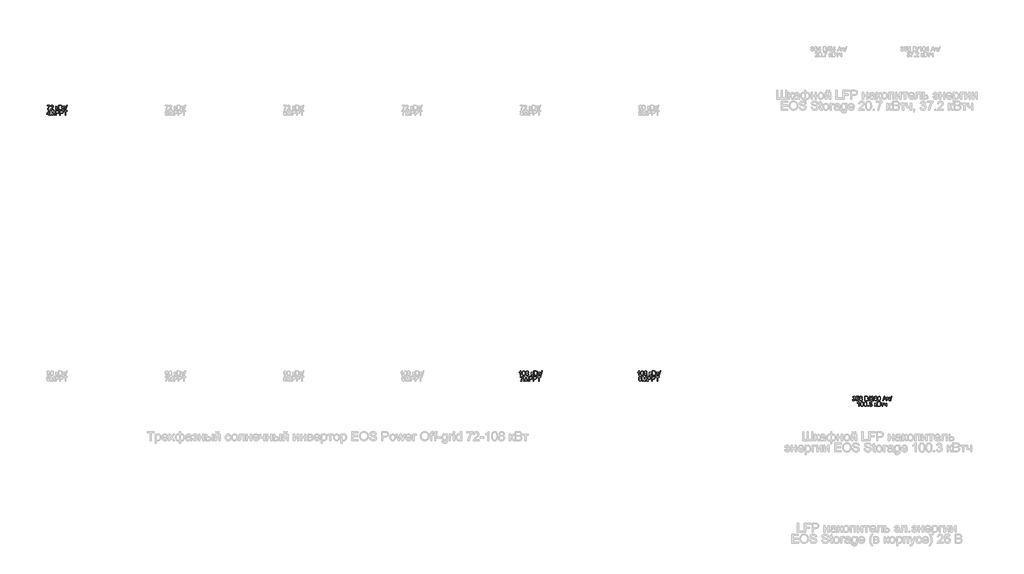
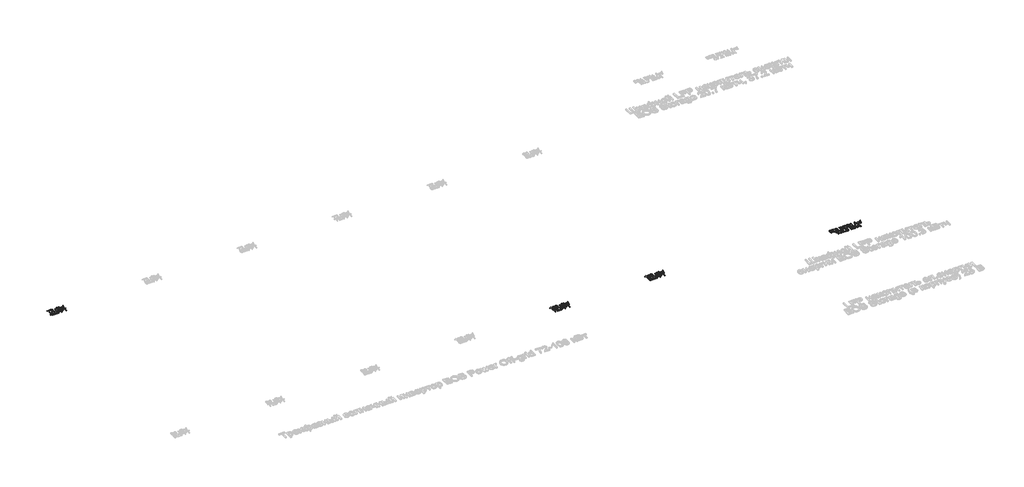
# One storey, part 22 of 26: 4 proxies.
"""IFC4 building model written with IfcOpenShell, lengths in millimetres."""

from ifc_helpers import new_model, si_unit, origin, origin_with_axes, place, context, project, spatial, polyline, outline, extrude, element, save

model = new_model("IFC4")

# Units and contexts
model_context = context("Model", 3, world=origin())
ifc_project = project(units=[si_unit("LENGTHUNIT", "METRE", prefix="MILLI")], contexts=[model_context])

# Site, building, storey
site = spatial("IfcSite", under=ifc_project)
building = spatial("IfcBuilding", under=site)
storey = spatial("IfcBuildingStorey", under=building, Name="Этаж 01", Elevation=0.0)

# Proxies
placement = place(None, origin())
element("IfcBuildingElementProxy", 1, Name="75 мм Arial", ObjectType="75 мм Arial", at=placement, inside=storey, context=model_context, shape_type="SweptSolid", body=[
    extrude(outline(polyline([(1821.5585542, -6950.1268309), (1821.5585542, -6940.7090518), (1871.0018943, -6940.7090518), (1871.0018943, -6948.3242091), (1856.9763933, -6968.58531), (1846.2434361, -6994.401429), (1842.7485571, -7014.874062), (1833.330778, -7014.874062), (1837.0739773, -6993.6288768), (1847.3470821, -6969.6153796), (1861.5841153, -6950.1268309), (1821.5585542, -6950.1268309)])), origin_with_axes(), (0.0, 0.0, 1.0), 5.0),
    extrude(outline(polyline([(1927.5085688, -7005.456283), (1927.5085688, -7014.874062), (1878.0652287, -7014.874062), (1879.0769041, -7008.3809448), (1884.7974692, -6998.3837516), (1896.5880871, -6987.4668534), (1912.8484713, -6971.7766863), (1916.9135673, -6961.1081084), (1913.0783975, -6952.4720786), (1903.0628102, -6948.9496085), (1892.6241586, -6952.3893052), (1888.6602301, -6961.8990547), (1879.242451, -6960.7218323), (1881.5256187, -6951.6121544), (1886.4621352, -6944.9580888), (1893.7944832, -6940.8883943), (1903.2651453, -6939.5318294), (1912.8047853, -6941.0401456), (1920.1233378, -6945.5650941), (1924.7793443, -6952.3249258), (1926.3313464, -6960.5378913), (1924.6574833, -6969.4682268), (1919.0932682, -6978.7020649), (1905.601196, -6991.6055258), (1894.7670712, -7000.66462), (1890.5180342, -7005.456283), (1927.5085688, -7005.456283)])), origin_with_axes(), (0.0, 0.0, 1.0), 5.0),
    extrude(outline(polyline([(1968.7113523, -6959.54461), (1978.1291313, -6959.54461), (1978.1291313, -6983.0890576), (1984.4383076, -6981.3968005), (1989.6070496, -6971.537563), (1993.9020719, -6963.0302919), (1997.6912564, -6960.2619798), (2004.5798468, -6959.54461), (2006.3824686, -6959.54461), (2006.3824686, -6969.0175713), (2003.8440828, -6968.962389), (1999.2455579, -6969.9556704), (1996.0081963, -6976.154482), (1992.2098147, -6982.8591314), (1986.8847228, -6986.1424782), (1998.6569467, -6997.528426), (2008.7369133, -7014.874062), (1998.0315473, -7014.874062), (1988.1539157, -6997.896308), (1983.1875088, -6990.713412), (1978.1291313, -6988.9751696), (1978.1291313, -7014.874062), (1968.7113523, -7014.874062), (1968.7113523, -6959.54461)])), origin_with_axes(), (0.0, 0.0, 1.0), 5.0),
    extrude(outline(polyline([(2015.8002476, -7014.874062), (2015.8002476, -6939.5318294), (2044.5502256, -6939.5318294), (2058.6309089, -6941.7483184), (2066.945042, -6948.5633324), (2069.9524773, -6958.2018407), (2067.4232886, -6967.0034174), (2059.7805402, -6973.6712786), (2069.0603635, -6980.6978247), (2072.3069221, -6992.4148662), (2070.0904331, -7002.5408181), (2064.5997943, -7009.7513052), (2056.4052229, -7013.577278), (2044.3294964, -7014.874062), (2015.8002476, -7014.874062)]), holes=[polyline([(2025.2180267, -7005.456283), (2044.5318315, -7005.456283), (2051.5215894, -7005.088401), (2057.4352925, -7003.0374588), (2061.3532357, -6998.8528011), (2062.889143, -6992.5068367), (2061.0865213, -6985.185985), (2055.2463946, -6980.8173863), (2043.6121265, -6979.5573905), (2025.2180267, -6979.5573905), (2025.2180267, -7005.456283)]), polyline([(2025.2180267, -6970.1396114), (2042.41651, -6970.1396114), (2052.4596885, -6969.330271), (2058.5021502, -6965.8445891), (2060.5346983, -6959.7101569), (2058.640106, -6953.5665275), (2053.2138466, -6949.9336928), (2041.1105289, -6948.9496085), (2025.2180267, -6948.9496085), (2025.2180267, -6970.1396114)])]), origin_with_axes(), (0.0, 0.0, 1.0), 5.0),
    extrude(outline(polyline([(2079.3702564, -6959.54461), (2124.104707, -6959.54461), (2124.104707, -6968.962389), (2106.4463713, -6968.962389), (2106.4463713, -7014.874062), (2097.0285922, -7014.874062), (2097.0285922, -6968.962389), (2079.3702564, -6968.962389), (2079.3702564, -6959.54461)])), origin_with_axes(), (0.0, 0.0, 1.0), 5.0),
    extrude(outline(polyline([(2125.2819294, -7014.874062), (2146.4719323, -6939.5318294), (2154.9700064, -6939.5318294), (2133.7800035, -7014.874062), (2125.2819294, -7014.874062)])), origin_with_axes(), (0.0, 0.0, 1.0), 5.0),
    extrude(outline(polyline([(1848.0460578, -7106.3551754), (1848.0460578, -7088.6968396), (1813.9066087, -7088.6968396), (1813.9066087, -7079.2790606), (1850.4005026, -7032.1901652), (1857.4638369, -7032.1901652), (1857.4638369, -7079.2790606), (1866.881616, -7079.2790606), (1866.881616, -7088.6968396), (1857.4638369, -7088.6968396), (1857.4638369, -7106.3551754), (1848.0460578, -7106.3551754)]), holes=[polyline([(1848.0460578, -7079.2790606), (1848.0460578, -7050.1795948), (1825.4948915, -7079.2790606), (1848.0460578, -7079.2790606)])]), origin_with_axes(), (0.0, 0.0, 1.0), 5.0),
    extrude(outline(polyline([(1878.6538398, -7106.3551754), (1878.6538398, -7031.0129428), (1894.8590417, -7031.0129428), (1910.2732973, -7084.1167088), (1913.3819002, -7095.208351), (1916.7480204, -7083.1970038), (1931.9047586, -7031.0129428), (1948.1099605, -7031.0129428), (1948.1099605, -7106.3551754), (1938.6921815, -7106.3551754), (1938.6921815, -7040.4307219), (1919.7646528, -7106.3551754), (1906.9991476, -7106.3551754), (1888.0716189, -7040.4307219), (1888.0716189, -7106.3551754), (1878.6538398, -7106.3551754)])), origin_with_axes(), (0.0, 0.0, 1.0), 5.0),
    extrude(outline(polyline([(1964.5910739, -7106.3551754), (1964.5910739, -7031.0129428), (1992.5133174, -7031.0129428), (2003.7705064, -7031.7303127), (2012.921571, -7035.2527828), (2018.8536682, -7042.5368463), (2021.0977484, -7052.809951), (2019.5825344, -7061.6897027), (2015.0368925, -7069.0887293), (2006.5365192, -7074.0827274), (1993.1571108, -7075.7473934), (1974.008853, -7075.7473934), (1974.008853, -7106.3551754), (1964.5910739, -7106.3551754)]), holes=[polyline([(1974.008853, -7066.3296143), (1993.7089338, -7066.3296143), (2007.5780851, -7062.8715236), (2011.6799693, -7053.1410448), (2009.2611452, -7045.3419465), (2002.9059837, -7041.0745154), (1993.4882046, -7040.4307219), (1974.008853, -7040.4307219), (1974.008853, -7066.3296143)])]), origin_with_axes(), (0.0, 0.0, 1.0), 5.0),
    extrude(outline(polyline([(2034.0471946, -7106.3551754), (2034.0471946, -7031.0129428), (2061.969438, -7031.0129428), (2073.2266271, -7031.7303127), (2082.3776917, -7035.2527828), (2088.3097889, -7042.5368463), (2090.5538691, -7052.809951), (2089.0386551, -7061.6897027), (2084.4930132, -7069.0887293), (2075.9926398, -7074.0827274), (2062.6132315, -7075.7473934), (2043.4649737, -7075.7473934), (2043.4649737, -7106.3551754), (2034.0471946, -7106.3551754)]), holes=[polyline([(2043.4649737, -7066.3296143), (2063.1650545, -7066.3296143), (2077.0342057, -7062.8715236), (2081.13609, -7053.1410448), (2078.7172659, -7045.3419465), (2072.3621044, -7041.0745154), (2062.9443253, -7040.4307219), (2043.4649737, -7040.4307219), (2043.4649737, -7066.3296143)])]), origin_with_axes(), (0.0, 0.0, 1.0), 5.0),
    extrude(outline(polyline([(2122.3388735, -7106.3551754), (2122.3388735, -7040.4307219), (2097.6172034, -7040.4307219), (2097.6172034, -7031.0129428), (2156.4783226, -7031.0129428), (2156.4783226, -7040.4307219), (2131.7566525, -7040.4307219), (2131.7566525, -7106.3551754), (2122.3388735, -7106.3551754)])), origin_with_axes(), (0.0, 0.0, 1.0), 5.0),
])
element("IfcBuildingElementProxy", 2, Name="75 мм Arial", ObjectType="75 мм Arial", at=placement, inside=storey, context=model_context, shape_type="SweptSolid", body=[
    extrude(outline(polyline([(9668.0332773, -11414.874062), (9658.6154982, -11414.874062), (9658.6154982, -11356.1600956), (9649.6943599, -11362.5152571), (9639.7799401, -11367.2701319), (9639.7799401, -11358.3673876), (9653.584712, -11349.5566138), (9661.9632244, -11339.5318294), (9668.0332773, -11339.5318294), (9668.0332773, -11414.874062)])), origin_with_axes(), (0.0, 0.0, 1.0), 5.0),
    extrude(outline(polyline([(9690.4005026, -11377.809951), (9693.1688146, -11356.1325045), (9701.3909772, -11343.6337137), (9715.1221727, -11339.5318294), (9726.1218443, -11341.9598506), (9733.7186076, -11348.9588055), (9738.1331915, -11360.10563), (9739.8438428, -11377.809951), (9737.1031219, -11399.3954271), (9728.9085505, -11411.921809), (9715.1221727, -11416.0512844), (9705.3365116, -11414.2578597), (9697.9052953, -11408.8775855), (9692.2767008, -11396.1350729), (9690.4005026, -11377.809951)]), holes=[polyline([(9699.8182817, -11377.7915569), (9700.9219277, -11392.605705), (9704.2328656, -11401.1796548), (9715.1221727, -11406.6335053), (9726.0114798, -11401.1612607), (9729.3224177, -11392.5827124), (9730.4260637, -11377.7915569), (9726.1586325, -11354.6701735), (9715.0118081, -11348.9496085), (9704.3800184, -11353.9895918), (9700.9587159, -11363.1682476), (9699.8182817, -11377.7915569)])]), origin_with_axes(), (0.0, 0.0, 1.0), 5.0),
    extrude(outline(polyline([(9761.8063979, -11373.376973), (9753.2255503, -11367.5276493), (9750.4388442, -11358.4225699), (9751.9563575, -11351.0603314), (9756.5088972, -11344.9764829), (9763.586027, -11340.8929928), (9772.6773108, -11339.5318294), (9781.8237769, -11340.9251825), (9788.9928773, -11345.1052416), (9793.6281905, -11351.2856592), (9795.1732948, -11358.6800873), (9792.4233769, -11367.5552404), (9784.0816527, -11373.376973), (9794.09724, -11380.762204), (9797.5277396, -11392.9482951), (9795.8262854, -11401.952207), (9790.7219227, -11409.3926203), (9782.840051, -11414.3866184), (9772.8060695, -11416.0512844), (9762.7720881, -11414.3797206), (9754.8902164, -11409.3650292), (9749.7858537, -11401.8533387), (9748.0843995, -11392.6907777), (9751.6528548, -11380.2195781), (9761.8063979, -11373.376973)]), holes=[polyline([(9759.8566233, -11358.6984814), (9763.1951524, -11366.0929095), (9772.9164341, -11368.962389), (9782.4445778, -11366.1113036), (9785.7555158, -11359.1215457), (9782.3342132, -11351.8834674), (9772.8060695, -11348.9496085), (9763.2503347, -11351.8190881), (9759.8566233, -11358.6984814)]), polyline([(9757.5021785, -11392.3596839), (9759.0748741, -11399.4506094), (9764.6390892, -11404.7573072), (9772.8796459, -11406.6335053), (9784.1000468, -11402.6879709), (9788.1099605, -11392.6539895), (9783.9712881, -11382.4268701), (9772.5669462, -11378.3801681), (9761.4845011, -11382.3716878), (9757.5021785, -11392.3596839)])]), origin_with_axes(), (0.0, 0.0, 1.0), 5.0),
    extrude(outline(polyline([(9837.5533007, -11359.54461), (9846.9710798, -11359.54461), (9846.9710798, -11383.0890576), (9853.280256, -11381.3968005), (9858.448998, -11371.537563), (9862.7440203, -11363.0302919), (9866.5332049, -11360.2619798), (9873.4217952, -11359.54461), (9875.224417, -11359.54461), (9875.224417, -11369.0175713), (9872.6860312, -11368.962389), (9868.0875063, -11369.9556704), (9864.8501447, -11376.154482), (9861.0517631, -11382.8591314), (9855.7266713, -11386.1424782), (9867.4988951, -11397.528426), (9877.5788618, -11414.874062), (9866.8734957, -11414.874062), (9856.9958641, -11397.896308), (9852.0294572, -11390.713412), (9846.9710798, -11388.9751696), (9846.9710798, -11414.874062), (9837.5533007, -11414.874062), (9837.5533007, -11359.54461)])), origin_with_axes(), (0.0, 0.0, 1.0), 5.0),
    extrude(outline(polyline([(9884.6421961, -11414.874062), (9884.6421961, -11339.5318294), (9913.392174, -11339.5318294), (9927.4728574, -11341.7483184), (9935.7869905, -11348.5633324), (9938.7944258, -11358.2018407), (9936.265237, -11367.0034174), (9928.6224886, -11373.6712786), (9937.9023119, -11380.6978247), (9941.1488705, -11392.4148662), (9938.9323815, -11402.5408181), (9933.4417427, -11409.7513052), (9925.2471713, -11413.577278), (9913.1714448, -11414.874062), (9884.6421961, -11414.874062)]), holes=[polyline([(9894.0599751, -11370.1396114), (9911.2584584, -11370.1396114), (9921.3016369, -11369.330271), (9927.3440987, -11365.8445891), (9929.3766467, -11359.7101569), (9927.4820544, -11353.5665275), (9922.055795, -11349.9336928), (9909.9524773, -11348.9496085), (9894.0599751, -11348.9496085), (9894.0599751, -11370.1396114)]), polyline([(9894.0599751, -11405.456283), (9913.3737799, -11405.456283), (9920.3635378, -11405.088401), (9926.2772409, -11403.0374588), (9930.1951841, -11398.8528011), (9931.7310915, -11392.5068367), (9929.9284697, -11385.185985), (9924.088343, -11380.8173863), (9912.4540749, -11379.5573905), (9894.0599751, -11379.5573905), (9894.0599751, -11405.456283)])]), origin_with_axes(), (0.0, 0.0, 1.0), 5.0),
    extrude(outline(polyline([(9948.2122048, -11359.54461), (9992.9466555, -11359.54461), (9992.9466555, -11368.962389), (9975.2883197, -11368.962389), (9975.2883197, -11414.874062), (9965.8705406, -11414.874062), (9965.8705406, -11368.962389), (9948.2122048, -11368.962389), (9948.2122048, -11359.54461)])), origin_with_axes(), (0.0, 0.0, 1.0), 5.0),
    extrude(outline(polyline([(9994.1238778, -11414.874062), (10015.3138808, -11339.5318294), (10023.8119548, -11339.5318294), (10002.6219519, -11414.874062), (9994.1238778, -11414.874062)])), origin_with_axes(), (0.0, 0.0, 1.0), 5.0),
    extrude(outline(polyline([(9657.4382759, -11441.6079443), (9657.4382759, -11432.1901652), (9706.881616, -11432.1901652), (9706.881616, -11439.8053225), (9692.8561149, -11460.0664234), (9682.1231577, -11485.8825424), (9678.6282788, -11506.3551754), (9669.2104997, -11506.3551754), (9672.953699, -11485.1099902), (9683.2268037, -11461.096493), (9697.4638369, -11441.6079443), (9657.4382759, -11441.6079443)])), origin_with_axes(), (0.0, 0.0, 1.0), 5.0),
    extrude(outline(polyline([(9718.6538398, -11506.3551754), (9718.6538398, -11431.0129428), (9734.8590417, -11431.0129428), (9750.2732973, -11484.1167088), (9753.3819002, -11495.208351), (9756.7480204, -11483.1970038), (9771.9047586, -11431.0129428), (9788.1099605, -11431.0129428), (9788.1099605, -11506.3551754), (9778.6921815, -11506.3551754), (9778.6921815, -11440.4307219), (9759.7646528, -11506.3551754), (9746.9991476, -11506.3551754), (9728.0716189, -11440.4307219), (9728.0716189, -11506.3551754), (9718.6538398, -11506.3551754)])), origin_with_axes(), (0.0, 0.0, 1.0), 5.0),
    extrude(outline(polyline([(9804.5910739, -11506.3551754), (9804.5910739, -11431.0129428), (9832.5133174, -11431.0129428), (9843.7705064, -11431.7303127), (9852.921571, -11435.2527828), (9858.8536682, -11442.5368463), (9861.0977484, -11452.809951), (9859.5825344, -11461.6897027), (9855.0368925, -11469.0887293), (9846.5365192, -11474.0827274), (9833.1571108, -11475.7473934), (9814.008853, -11475.7473934), (9814.008853, -11506.3551754), (9804.5910739, -11506.3551754)]), holes=[polyline([(9814.008853, -11466.3296143), (9833.7089338, -11466.3296143), (9847.5780851, -11462.8715236), (9851.6799693, -11453.1410448), (9849.2611452, -11445.3419465), (9842.9059837, -11441.0745154), (9833.4882046, -11440.4307219), (9814.008853, -11440.4307219), (9814.008853, -11466.3296143)])]), origin_with_axes(), (0.0, 0.0, 1.0), 5.0),
    extrude(outline(polyline([(9874.0471946, -11506.3551754), (9874.0471946, -11431.0129428), (9901.969438, -11431.0129428), (9913.2266271, -11431.7303127), (9922.3776917, -11435.2527828), (9928.3097889, -11442.5368463), (9930.5538691, -11452.809951), (9929.0386551, -11461.6897027), (9924.4930132, -11469.0887293), (9915.9926398, -11474.0827274), (9902.6132315, -11475.7473934), (9883.4649737, -11475.7473934), (9883.4649737, -11506.3551754), (9874.0471946, -11506.3551754)]), holes=[polyline([(9883.4649737, -11466.3296143), (9903.1650545, -11466.3296143), (9917.0342057, -11462.8715236), (9921.13609, -11453.1410448), (9918.7172659, -11445.3419465), (9912.3621044, -11441.0745154), (9902.9443253, -11440.4307219), (9883.4649737, -11440.4307219), (9883.4649737, -11466.3296143)])]), origin_with_axes(), (0.0, 0.0, 1.0), 5.0),
    extrude(outline(polyline([(9962.3388735, -11506.3551754), (9962.3388735, -11440.4307219), (9937.6172034, -11440.4307219), (9937.6172034, -11431.0129428), (9996.4783226, -11431.0129428), (9996.4783226, -11440.4307219), (9971.7566525, -11440.4307219), (9971.7566525, -11506.3551754), (9962.3388735, -11506.3551754)])), origin_with_axes(), (0.0, 0.0, 1.0), 5.0),
])
element("IfcBuildingElementProxy", 3, Name="75 мм Arial", ObjectType="75 мм Arial", at=placement, inside=storey, context=model_context, shape_type="SweptSolid", body=[
    extrude(outline(polyline([(11628.0332773, -11414.874062), (11618.6154982, -11414.874062), (11618.6154982, -11356.1600956), (11609.6943599, -11362.5152571), (11599.7799401, -11367.2701319), (11599.7799401, -11358.3673876), (11613.584712, -11349.5566138), (11621.9632244, -11339.5318294), (11628.0332773, -11339.5318294), (11628.0332773, -11414.874062)])), origin_with_axes(), (0.0, 0.0, 1.0), 5.0),
    extrude(outline(polyline([(11650.4005026, -11377.809951), (11653.1688146, -11356.1325045), (11661.3909772, -11343.6337137), (11675.1221727, -11339.5318294), (11686.1218443, -11341.9598506), (11693.7186076, -11348.9588055), (11698.1331915, -11360.10563), (11699.8438428, -11377.809951), (11697.1031219, -11399.3954271), (11688.9085505, -11411.921809), (11675.1221727, -11416.0512844), (11665.3365116, -11414.2578597), (11657.9052953, -11408.8775855), (11652.2767008, -11396.1350729), (11650.4005026, -11377.809951)]), holes=[polyline([(11659.8182817, -11377.7915569), (11660.9219277, -11392.605705), (11664.2328656, -11401.1796548), (11675.1221727, -11406.6335053), (11686.0114798, -11401.1612607), (11689.3224177, -11392.5827124), (11690.4260637, -11377.7915569), (11686.1586325, -11354.6701735), (11675.0118081, -11348.9496085), (11664.3800184, -11353.9895918), (11660.9587159, -11363.1682476), (11659.8182817, -11377.7915569)])]), origin_with_axes(), (0.0, 0.0, 1.0), 5.0),
    extrude(outline(polyline([(11721.8063979, -11373.376973), (11713.2255503, -11367.5276493), (11710.4388442, -11358.4225699), (11711.9563575, -11351.0603314), (11716.5088972, -11344.9764829), (11723.586027, -11340.8929928), (11732.6773108, -11339.5318294), (11741.8237769, -11340.9251825), (11748.9928773, -11345.1052416), (11753.6281905, -11351.2856592), (11755.1732948, -11358.6800873), (11752.4233769, -11367.5552404), (11744.0816527, -11373.376973), (11754.09724, -11380.762204), (11757.5277396, -11392.9482951), (11755.8262854, -11401.952207), (11750.7219227, -11409.3926203), (11742.840051, -11414.3866184), (11732.8060695, -11416.0512844), (11722.7720881, -11414.3797206), (11714.8902164, -11409.3650292), (11709.7858537, -11401.8533387), (11708.0843995, -11392.6907777), (11711.6528548, -11380.2195781), (11721.8063979, -11373.376973)]), holes=[polyline([(11719.8566233, -11358.6984814), (11723.1951524, -11366.0929095), (11732.9164341, -11368.962389), (11742.4445778, -11366.1113036), (11745.7555158, -11359.1215457), (11742.3342132, -11351.8834674), (11732.8060695, -11348.9496085), (11723.2503347, -11351.8190881), (11719.8566233, -11358.6984814)]), polyline([(11717.5021785, -11392.3596839), (11719.0748741, -11399.4506094), (11724.6390892, -11404.7573072), (11732.8796459, -11406.6335053), (11744.1000468, -11402.6879709), (11748.1099605, -11392.6539895), (11743.9712881, -11382.4268701), (11732.5669462, -11378.3801681), (11721.4845011, -11382.3716878), (11717.5021785, -11392.3596839)])]), origin_with_axes(), (0.0, 0.0, 1.0), 5.0),
    extrude(outline(polyline([(11797.5533007, -11359.54461), (11806.9710798, -11359.54461), (11806.9710798, -11383.0890576), (11813.280256, -11381.3968005), (11818.448998, -11371.537563), (11822.7440203, -11363.0302919), (11826.5332049, -11360.2619798), (11833.4217952, -11359.54461), (11835.224417, -11359.54461), (11835.224417, -11369.0175713), (11832.6860312, -11368.962389), (11828.0875063, -11369.9556704), (11824.8501447, -11376.154482), (11821.0517631, -11382.8591314), (11815.7266713, -11386.1424782), (11827.4988951, -11397.528426), (11837.5788618, -11414.874062), (11826.8734957, -11414.874062), (11816.9958641, -11397.896308), (11812.0294572, -11390.713412), (11806.9710798, -11388.9751696), (11806.9710798, -11414.874062), (11797.5533007, -11414.874062), (11797.5533007, -11359.54461)])), origin_with_axes(), (0.0, 0.0, 1.0), 5.0),
    extrude(outline(polyline([(11844.6421961, -11414.874062), (11844.6421961, -11339.5318294), (11873.392174, -11339.5318294), (11887.4728574, -11341.7483184), (11895.7869905, -11348.5633324), (11898.7944258, -11358.2018407), (11896.265237, -11367.0034174), (11888.6224886, -11373.6712786), (11897.9023119, -11380.6978247), (11901.1488705, -11392.4148662), (11898.9323815, -11402.5408181), (11893.4417427, -11409.7513052), (11885.2471713, -11413.577278), (11873.1714448, -11414.874062), (11844.6421961, -11414.874062)]), holes=[polyline([(11854.0599751, -11370.1396114), (11871.2584584, -11370.1396114), (11881.3016369, -11369.330271), (11887.3440987, -11365.8445891), (11889.3766467, -11359.7101569), (11887.4820544, -11353.5665275), (11882.055795, -11349.9336928), (11869.9524773, -11348.9496085), (11854.0599751, -11348.9496085), (11854.0599751, -11370.1396114)]), polyline([(11854.0599751, -11405.456283), (11873.3737799, -11405.456283), (11880.3635378, -11405.088401), (11886.2772409, -11403.0374588), (11890.1951841, -11398.8528011), (11891.7310915, -11392.5068367), (11889.9284697, -11385.185985), (11884.088343, -11380.8173863), (11872.4540749, -11379.5573905), (11854.0599751, -11379.5573905), (11854.0599751, -11405.456283)])]), origin_with_axes(), (0.0, 0.0, 1.0), 5.0),
    extrude(outline(polyline([(11908.2122048, -11359.54461), (11952.9466555, -11359.54461), (11952.9466555, -11368.962389), (11935.2883197, -11368.962389), (11935.2883197, -11414.874062), (11925.8705406, -11414.874062), (11925.8705406, -11368.962389), (11908.2122048, -11368.962389), (11908.2122048, -11359.54461)])), origin_with_axes(), (0.0, 0.0, 1.0), 5.0),
    extrude(outline(polyline([(11954.1238778, -11414.874062), (11975.3138808, -11339.5318294), (11983.8119548, -11339.5318294), (11962.6219519, -11414.874062), (11954.1238778, -11414.874062)])), origin_with_axes(), (0.0, 0.0, 1.0), 5.0),
    extrude(outline(polyline([(11631.1602743, -11464.8580864), (11622.5794267, -11459.0087626), (11619.7927206, -11449.9036833), (11621.3102338, -11442.5414448), (11625.8627735, -11436.4575963), (11632.9399034, -11432.3741062), (11642.0311872, -11431.0129428), (11651.1776533, -11432.4062959), (11658.3467537, -11436.586355), (11662.9820669, -11442.7667725), (11664.5271712, -11450.1612007), (11661.7772533, -11459.0363538), (11653.4355291, -11464.8580864), (11663.4511164, -11472.2433174), (11666.881616, -11484.4294085), (11665.1801618, -11493.4333203), (11660.0757991, -11500.8737337), (11652.1939273, -11505.8677318), (11642.1599459, -11507.5323978), (11632.1259645, -11505.860834), (11624.2440928, -11500.8461425), (11619.1397301, -11493.334452), (11617.4382759, -11484.1718911), (11621.0067312, -11471.7006915), (11631.1602743, -11464.8580864)]), holes=[polyline([(11629.2104997, -11450.1795948), (11632.5490288, -11457.5740229), (11642.2703105, -11460.4435024), (11651.7984542, -11457.592417), (11655.1093922, -11450.602659), (11651.6880896, -11443.3645808), (11642.1599459, -11440.4307219), (11632.6042111, -11443.3002014), (11629.2104997, -11450.1795948)]), polyline([(11626.8560549, -11483.8407973), (11628.4287505, -11490.9317228), (11633.9929656, -11496.2384205), (11642.2335223, -11498.1146187), (11653.4539232, -11494.1690843), (11657.4638369, -11484.1351029), (11653.3251645, -11473.9079834), (11641.9208226, -11469.8612815), (11630.8383775, -11473.8528011), (11626.8560549, -11483.8407973)])]), origin_with_axes(), (0.0, 0.0, 1.0), 5.0),
    extrude(outline(polyline([(11678.6538398, -11506.3551754), (11678.6538398, -11431.0129428), (11694.8590417, -11431.0129428), (11710.2732973, -11484.1167088), (11713.3819002, -11495.208351), (11716.7480204, -11483.1970038), (11731.9047586, -11431.0129428), (11748.1099605, -11431.0129428), (11748.1099605, -11506.3551754), (11738.6921815, -11506.3551754), (11738.6921815, -11440.4307219), (11719.7646528, -11506.3551754), (11706.9991476, -11506.3551754), (11688.0716189, -11440.4307219), (11688.0716189, -11506.3551754), (11678.6538398, -11506.3551754)])), origin_with_axes(), (0.0, 0.0, 1.0), 5.0),
    extrude(outline(polyline([(11764.5910739, -11506.3551754), (11764.5910739, -11431.0129428), (11792.5133174, -11431.0129428), (11803.7705064, -11431.7303127), (11812.921571, -11435.2527828), (11818.8536682, -11442.5368463), (11821.0977484, -11452.809951), (11819.5825344, -11461.6897027), (11815.0368925, -11469.0887293), (11806.5365192, -11474.0827274), (11793.1571108, -11475.7473934), (11774.008853, -11475.7473934), (11774.008853, -11506.3551754), (11764.5910739, -11506.3551754)]), holes=[polyline([(11774.008853, -11466.3296143), (11793.7089338, -11466.3296143), (11807.5780851, -11462.8715236), (11811.6799693, -11453.1410448), (11809.2611452, -11445.3419465), (11802.9059837, -11441.0745154), (11793.4882046, -11440.4307219), (11774.008853, -11440.4307219), (11774.008853, -11466.3296143)])]), origin_with_axes(), (0.0, 0.0, 1.0), 5.0),
    extrude(outline(polyline([(11834.0471946, -11506.3551754), (11834.0471946, -11431.0129428), (11861.969438, -11431.0129428), (11873.2266271, -11431.7303127), (11882.3776917, -11435.2527828), (11888.3097889, -11442.5368463), (11890.5538691, -11452.809951), (11889.0386551, -11461.6897027), (11884.4930132, -11469.0887293), (11875.9926398, -11474.0827274), (11862.6132315, -11475.7473934), (11843.4649737, -11475.7473934), (11843.4649737, -11506.3551754), (11834.0471946, -11506.3551754)]), holes=[polyline([(11843.4649737, -11466.3296143), (11863.1650545, -11466.3296143), (11877.0342057, -11462.8715236), (11881.13609, -11453.1410448), (11878.7172659, -11445.3419465), (11872.3621044, -11441.0745154), (11862.9443253, -11440.4307219), (11843.4649737, -11440.4307219), (11843.4649737, -11466.3296143)])]), origin_with_axes(), (0.0, 0.0, 1.0), 5.0),
    extrude(outline(polyline([(11922.3388735, -11506.3551754), (11922.3388735, -11440.4307219), (11897.6172034, -11440.4307219), (11897.6172034, -11431.0129428), (11956.4783226, -11431.0129428), (11956.4783226, -11440.4307219), (11931.7566525, -11440.4307219), (11931.7566525, -11506.3551754), (11922.3388735, -11506.3551754)])), origin_with_axes(), (0.0, 0.0, 1.0), 5.0),
])
element("IfcBuildingElementProxy", 4, Name="75 мм Arial", ObjectType="75 мм Arial", at=placement, inside=storey, context=model_context, shape_type="SweptSolid", body=[
    extrude(outline(polyline([(15158.4812532, -11814.5874233), (15167.8990323, -11813.410201), (15173.0953655, -11823.3246207), (15182.8166472, -11826.3596472), (15194.2577772, -11822.1841866), (15198.5068143, -11811.8467025), (15194.2945654, -11802.1070267), (15183.5891994, -11798.2534628), (15176.9857176, -11799.2835324), (15178.0341812, -11789.8657533), (15190.2294694, -11787.2721852), (15194.9751471, -11778.9580521), (15191.5354505, -11771.5912152), (15182.6694944, -11768.6757504), (15173.6931737, -11771.6188063), (15169.0762547, -11780.4479742), (15159.6584756, -11779.2707518), (15167.3656034, -11764.5002897), (15182.3384006, -11759.2579713), (15193.6967572, -11761.8423423), (15201.6430083, -11768.9056766), (15204.3929262, -11778.4062291), (15201.780964, -11787.0882442), (15194.0554421, -11793.323844), (15204.3193498, -11799.7617789), (15207.9245934, -11812.0122494), (15206.1219716, -11821.1909052), (15200.7141062, -11828.8612448), (15192.5517245, -11834.0483809), (15182.4855534, -11835.7774263), (15173.380474, -11834.3012998), (15165.9676518, -11829.8729202), (15160.8127053, -11823.099293), (15158.4812532, -11814.5874233)])), origin_with_axes(), (0.0, 0.0, 1.0), 5.0),
    extrude(outline(polyline([(15216.16515, -11814.5874233), (15225.5829291, -11813.410201), (15230.3286069, -11823.1130886), (15240.1694502, -11826.3596472), (15251.9784623, -11821.8438957), (15256.1907111, -11809.8601397), (15252.2451767, -11798.6765271), (15240.316603, -11794.5746428), (15232.0484552, -11796.2117177), (15226.7601515, -11800.4607547), (15217.3423724, -11799.2835324), (15225.5829291, -11760.4351937), (15262.076823, -11760.4351937), (15262.076823, -11769.8529727), (15233.1980864, -11769.8529727), (15229.1697786, -11790.6015173), (15242.9469593, -11785.1568637), (15251.7462368, -11786.8445224), (15259.0509936, -11791.9074983), (15263.9691161, -11799.6238232), (15265.6084902, -11809.2715285), (15264.1323637, -11818.6893076), (15259.7039842, -11826.7459233), (15251.2243042, -11833.5195505), (15240.132662, -11835.7774263), (15230.8827291, -11834.3265917), (15223.5135929, -11829.9740878), (15218.4621132, -11823.2257524), (15216.16515, -11814.5874233)])), origin_with_axes(), (0.0, 0.0, 1.0), 5.0),
    extrude(outline(polyline([(15287.5710453, -11793.1031148), (15278.9901978, -11787.2537911), (15276.2034917, -11778.1487117), (15277.7210049, -11770.7864733), (15282.2735446, -11764.7026248), (15289.3506745, -11760.6191347), (15298.4419583, -11759.2579713), (15307.5884244, -11760.6513243), (15314.7575247, -11764.8313835), (15319.3928379, -11771.011801), (15320.9379423, -11778.4062291), (15318.1880244, -11787.2813823), (15309.8463001, -11793.1031148), (15319.8618874, -11800.4883459), (15323.292387, -11812.674437), (15321.5909328, -11821.6783488), (15316.4865701, -11829.1187622), (15308.6046984, -11834.1127602), (15298.570717, -11835.7774263), (15288.5367355, -11834.1058625), (15280.6548638, -11829.091171), (15275.5505011, -11821.5794805), (15273.8490469, -11812.4169196), (15277.4175022, -11799.9457199), (15287.5710453, -11793.1031148)]), holes=[polyline([(15283.266826, -11812.0858258), (15284.8395215, -11819.1767512), (15290.4037367, -11824.483449), (15298.6442934, -11826.3596472), (15309.8646942, -11822.4141128), (15313.874608, -11812.3801314), (15309.7359355, -11802.1530119), (15298.3315937, -11798.10631), (15287.2491486, -11802.0978296), (15283.266826, -11812.0858258)]), polyline([(15285.6212707, -11778.4246232), (15288.9597998, -11785.8190513), (15298.6810816, -11788.6885309), (15308.2092252, -11785.8374454), (15311.5201632, -11778.8476875), (15308.0988606, -11771.6096093), (15298.570717, -11768.6757504), (15289.0149821, -11771.5452299), (15285.6212707, -11778.4246232)])]), origin_with_axes(), (0.0, 0.0, 1.0), 5.0),
    extrude(outline(polyline([(15364.4951705, -11834.6002039), (15364.4951705, -11759.2579713), (15393.2451484, -11759.2579713), (15407.3258318, -11761.4744603), (15415.6399649, -11768.2894743), (15418.6474002, -11777.9279825), (15416.1182115, -11786.7295593), (15408.475463, -11793.3974204), (15417.7552863, -11800.4239665), (15421.001845, -11812.1410081), (15418.7853559, -11822.26696), (15413.2947172, -11829.4774471), (15405.1001457, -11833.3034199), (15393.0244192, -11834.6002039), (15364.4951705, -11834.6002039)]), holes=[polyline([(15373.9129496, -11789.8657533), (15391.1114328, -11789.8657533), (15401.1546113, -11789.0564129), (15407.1970731, -11785.570731), (15409.2296211, -11779.4362987), (15407.3350288, -11773.2926694), (15401.9087694, -11769.6598347), (15389.8054518, -11768.6757504), (15373.9129496, -11768.6757504), (15373.9129496, -11789.8657533)]), polyline([(15373.9129496, -11825.1824248), (15393.2267543, -11825.1824248), (15400.2165122, -11824.8145428), (15406.1302153, -11822.7636007), (15410.0481586, -11818.578943), (15411.5840659, -11812.2329786), (15409.7814441, -11804.9121269), (15403.9413174, -11800.5435282), (15392.3070493, -11799.2835324), (15373.9129496, -11799.2835324), (15373.9129496, -11825.1824248)])]), origin_with_axes(), (0.0, 0.0, 1.0), 5.0),
    extrude(outline(polyline([(15425.7107345, -11834.6002039), (15446.9007374, -11759.2579713), (15455.3988115, -11759.2579713), (15434.2088086, -11834.6002039), (15425.7107345, -11834.6002039)])), origin_with_axes(), (0.0, 0.0, 1.0), 5.0),
    extrude(outline(polyline([(15508.1163014, -11825.1824248), (15508.1163014, -11834.6002039), (15458.6729613, -11834.6002039), (15459.6846367, -11828.1070867), (15465.4052018, -11818.1098935), (15477.1958197, -11807.1929952), (15493.4562039, -11791.5028282), (15497.5213, -11780.8342503), (15493.6861302, -11772.1982205), (15483.6705428, -11768.6757504), (15473.2318912, -11772.115447), (15469.2679627, -11781.6251966), (15459.8501836, -11780.4479742), (15462.1333513, -11771.3382963), (15467.0698678, -11764.6842307), (15474.4022158, -11760.6145361), (15483.8728779, -11759.2579713), (15493.4125179, -11760.7662875), (15500.7310704, -11765.291236), (15505.3870769, -11772.0510677), (15506.939079, -11780.2640332), (15505.265216, -11789.1943686), (15499.7010008, -11798.4282067), (15486.2089286, -11811.3316677), (15475.3748038, -11820.3907618), (15471.1257668, -11825.1824248), (15508.1163014, -11825.1824248)])), origin_with_axes(), (0.0, 0.0, 1.0), 5.0),
    extrude(outline(polyline([(15531.2560789, -11793.1031148), (15522.6752314, -11787.2537911), (15519.8885253, -11778.1487117), (15521.4060385, -11770.7864733), (15525.9585782, -11764.7026248), (15533.0357081, -11760.6191347), (15542.1269919, -11759.2579713), (15551.273458, -11760.6513243), (15558.4425584, -11764.8313835), (15563.0778715, -11771.011801), (15564.6229759, -11778.4062291), (15561.873058, -11787.2813823), (15553.5313337, -11793.1031148), (15563.546921, -11800.4883459), (15566.9774206, -11812.674437), (15565.2759664, -11821.6783488), (15560.1716037, -11829.1187622), (15552.289732, -11834.1127602), (15542.2557506, -11835.7774263), (15532.2217691, -11834.1058625), (15524.3398974, -11829.091171), (15519.2355347, -11821.5794805), (15517.5340805, -11812.4169196), (15521.1025358, -11799.9457199), (15531.2560789, -11793.1031148)]), holes=[polyline([(15529.3063043, -11778.4246232), (15532.6448334, -11785.8190513), (15542.3661152, -11788.6885309), (15551.8942588, -11785.8374454), (15555.2051968, -11778.8476875), (15551.7838942, -11771.6096093), (15542.2557506, -11768.6757504), (15532.7000157, -11771.5452299), (15529.3063043, -11778.4246232)]), polyline([(15526.9518596, -11812.0858258), (15528.5245551, -11819.1767512), (15534.0887703, -11824.483449), (15542.329327, -11826.3596472), (15553.5497278, -11822.4141128), (15557.5596416, -11812.3801314), (15553.4209691, -11802.1530119), (15542.0166273, -11798.10631), (15530.9341822, -11802.0978296), (15526.9518596, -11812.0858258)])]), origin_with_axes(), (0.0, 0.0, 1.0), 5.0),
    extrude(outline(polyline([(15575.2179773, -11797.5360929), (15577.9862893, -11775.8586463), (15586.2084519, -11763.3598555), (15599.9396474, -11759.2579713), (15610.9393191, -11761.6859924), (15618.5360823, -11768.6849474), (15622.9506662, -11779.8317719), (15624.6613175, -11797.5360929), (15621.9205966, -11819.1215689), (15613.7260252, -11831.6479509), (15599.9396474, -11835.7774263), (15590.1539863, -11833.9840015), (15582.72277, -11828.6037274), (15577.0941755, -11815.8612148), (15575.2179773, -11797.5360929)]), holes=[polyline([(15584.6357564, -11797.5176988), (15585.7394024, -11812.3318469), (15589.0503404, -11820.9057966), (15599.9396474, -11826.3596472), (15610.8289545, -11820.8874025), (15614.1398924, -11812.3088542), (15615.2435384, -11797.5176988), (15610.9761073, -11774.3963154), (15599.8292828, -11768.6757504), (15589.1974932, -11773.7157337), (15585.7761906, -11782.8943895), (15584.6357564, -11797.5176988)])]), origin_with_axes(), (0.0, 0.0, 1.0), 5.0),
    extrude(outline(polyline([(15657.0901154, -11834.6002039), (15687.1644685, -11759.2579713), (15695.184296, -11759.2579713), (15725.2586491, -11834.6002039), (15715.3074411, -11834.6002039), (15706.6806083, -11811.0557562), (15675.649762, -11811.0557562), (15667.0413233, -11834.6002039), (15657.0901154, -11834.6002039)]), holes=[polyline([(15679.1078528, -11801.6379771), (15703.2409117, -11801.6379771), (15696.4534888, -11783.1151187), (15691.1743822, -11768.6757504), (15686.4838868, -11781.4964379), (15679.1078528, -11801.6379771)])]), origin_with_axes(), (0.0, 0.0, 1.0), 5.0),
    extrude(outline(polyline([(15730.6113321, -11779.2707518), (15740.0291112, -11779.2707518), (15740.0291112, -11789.8841474), (15740.7924663, -11799.8353553), (15744.4620892, -11805.2248266), (15751.7461527, -11807.524089), (15764.7507812, -11804.6730036), (15764.7507812, -11779.2707518), (15774.1685603, -11779.2707518), (15774.1685603, -11834.6002039), (15764.7507812, -11834.6002039), (15764.7507812, -11813.7045066), (15749.2261611, -11816.9418681), (15738.5483861, -11813.5665508), (15732.2668011, -11805.298403), (15730.6113321, -11794.5378546), (15730.6113321, -11779.2707518)])), origin_with_axes(), (0.0, 0.0, 1.0), 5.0),
    extrude(outline(polyline([(15781.2318946, -11834.6002039), (15802.4218976, -11759.2579713), (15810.9199716, -11759.2579713), (15789.7299687, -11834.6002039), (15781.2318946, -11834.6002039)])), origin_with_axes(), (0.0, 0.0, 1.0), 5.0),
    extrude(outline(polyline([(15268.5515462, -11926.0813173), (15259.1337671, -11926.0813173), (15259.1337671, -11867.3673508), (15250.2126287, -11873.7225123), (15240.2982089, -11878.4773871), (15240.2982089, -11869.5746428), (15254.1029808, -11860.763869), (15262.4814932, -11850.7390847), (15268.5515462, -11850.7390847), (15268.5515462, -11926.0813173)])), origin_with_axes(), (0.0, 0.0, 1.0), 5.0),
    extrude(outline(polyline([(15290.9187715, -11889.0172063), (15293.6870835, -11867.3397597), (15301.9092461, -11854.8409689), (15315.6404415, -11850.7390847), (15326.6401132, -11853.1671058), (15334.2368764, -11860.1660608), (15338.6514603, -11871.3128852), (15340.3621116, -11889.0172063), (15337.6213907, -11910.6026823), (15329.4268193, -11923.1290643), (15315.6404415, -11927.2585397), (15305.8547805, -11925.4651149), (15298.4235642, -11920.0848408), (15292.7949696, -11907.3423281), (15290.9187715, -11889.0172063)]), holes=[polyline([(15300.3365505, -11888.9988122), (15301.4401965, -11903.8129603), (15304.7511345, -11912.38691), (15315.6404415, -11917.8407606), (15326.5297486, -11912.3685159), (15329.8406866, -11903.7899676), (15330.9443325, -11888.9988122), (15326.6769014, -11865.8774288), (15315.5300769, -11860.1568637), (15304.8982873, -11865.1968471), (15301.4769847, -11874.3755028), (15300.3365505, -11888.9988122)])]), origin_with_axes(), (0.0, 0.0, 1.0), 5.0),
    extrude(outline(polyline([(15348.6026683, -11889.0172063), (15351.3709803, -11867.3397597), (15359.5931429, -11854.8409689), (15373.3243384, -11850.7390847), (15384.32401, -11853.1671058), (15391.9207732, -11860.1660608), (15396.3353572, -11871.3128852), (15398.0460085, -11889.0172063), (15395.3052876, -11910.6026823), (15387.1107162, -11923.1290643), (15373.3243384, -11927.2585397), (15363.5386773, -11925.4651149), (15356.107461, -11920.0848408), (15350.4788665, -11907.3423281), (15348.6026683, -11889.0172063)]), holes=[polyline([(15358.0204474, -11888.9988122), (15359.1240934, -11903.8129603), (15362.4350313, -11912.38691), (15373.3243384, -11917.8407606), (15384.2136454, -11912.3685159), (15387.5245834, -11903.7899676), (15388.6282294, -11888.9988122), (15384.3607982, -11865.8774288), (15373.2139738, -11860.1568637), (15362.5821841, -11865.1968471), (15359.1608816, -11874.3755028), (15358.0204474, -11888.9988122)])]), origin_with_axes(), (0.0, 0.0, 1.0), 5.0),
    extrude(outline(polyline([(15410.9954547, -11926.0813173), (15410.9954547, -11916.6635382), (15420.4132338, -11916.6635382), (15420.4132338, -11926.0813173), (15410.9954547, -11926.0813173)])), origin_with_axes(), (0.0, 0.0, 1.0), 5.0),
    extrude(outline(polyline([(15435.7171248, -11906.0685367), (15445.1349038, -11904.8913143), (15450.331237, -11914.8057341), (15460.0525187, -11917.8407606), (15471.4936488, -11913.6652999), (15475.7426858, -11903.3278159), (15471.530437, -11893.58814), (15460.8250709, -11889.7345761), (15454.2215891, -11890.7646457), (15455.2700528, -11881.3468667), (15467.4653409, -11878.7532986), (15472.2110187, -11870.4391655), (15468.771322, -11863.0723285), (15459.9053659, -11860.1568637), (15450.9290453, -11863.0999197), (15446.3121262, -11871.9290876), (15436.8943471, -11870.7518652), (15444.6014749, -11855.9814031), (15459.5742722, -11850.7390847), (15470.9326288, -11853.3234557), (15478.8788798, -11860.38679), (15481.6287978, -11869.8873425), (15479.0168356, -11878.5693576), (15471.2913137, -11884.8049574), (15481.5552214, -11891.2428923), (15485.1604649, -11903.4933628), (15483.3578431, -11912.6720185), (15477.9499778, -11920.3423581), (15469.787596, -11925.5294943), (15459.7214249, -11927.2585397), (15450.6163456, -11925.7824132), (15443.2035234, -11921.3540336), (15438.0485769, -11914.5804064), (15435.7171248, -11906.0685367)])), origin_with_axes(), (0.0, 0.0, 1.0), 5.0),
    extrude(outline(polyline([(15525.186026, -11870.7518652), (15534.6038051, -11870.7518652), (15534.6038051, -11894.2963129), (15540.9129813, -11892.6040557), (15546.0817233, -11882.7448182), (15550.3767456, -11874.2375471), (15554.1659302, -11871.4692351), (15561.0545205, -11870.7518652), (15562.8571423, -11870.7518652), (15562.8571423, -11880.2248266), (15560.3187565, -11880.1696443), (15555.7202316, -11881.1629257), (15552.48287, -11887.3617373), (15548.6844884, -11894.0663866), (15543.3593966, -11897.3497334), (15555.1316204, -11908.7356812), (15565.2115871, -11926.0813173), (15554.506221, -11926.0813173), (15544.6285894, -11909.1035632), (15539.6621825, -11901.9206672), (15534.6038051, -11900.1824248), (15534.6038051, -11926.0813173), (15525.186026, -11926.0813173), (15525.186026, -11870.7518652)])), origin_with_axes(), (0.0, 0.0, 1.0), 5.0),
    extrude(outline(polyline([(15572.2749214, -11926.0813173), (15572.2749214, -11850.7390847), (15601.0248993, -11850.7390847), (15615.1055827, -11852.9555737), (15623.4197158, -11859.7705876), (15626.4271511, -11869.4090959), (15623.8979623, -11878.2106726), (15616.2552139, -11884.8785338), (15625.5350372, -11891.9050799), (15628.7815958, -11903.6221215), (15626.5651068, -11913.7480734), (15621.074468, -11920.9585605), (15612.8798966, -11924.7845332), (15600.8041701, -11926.0813173), (15572.2749214, -11926.0813173)]), holes=[polyline([(15581.6927004, -11881.3468667), (15598.8911837, -11881.3468667), (15608.9343622, -11880.5375263), (15614.976824, -11877.0518444), (15617.009372, -11870.9174121), (15615.1147797, -11864.7737828), (15609.6885203, -11861.1409481), (15597.5852026, -11860.1568637), (15581.6927004, -11860.1568637), (15581.6927004, -11881.3468667)]), polyline([(15581.6927004, -11916.6635382), (15601.0065052, -11916.6635382), (15607.9962631, -11916.2956562), (15613.9099662, -11914.2447141), (15617.8279094, -11910.0600564), (15619.3638168, -11903.714092), (15617.561195, -11896.3932403), (15611.7210683, -11892.0246416), (15600.0868002, -11890.7646457), (15581.6927004, -11890.7646457), (15581.6927004, -11916.6635382)])]), origin_with_axes(), (0.0, 0.0, 1.0), 5.0),
    extrude(outline(polyline([(15635.8449301, -11870.7518652), (15680.5793808, -11870.7518652), (15680.5793808, -11880.1696443), (15662.921045, -11880.1696443), (15662.921045, -11926.0813173), (15653.5032659, -11926.0813173), (15653.5032659, -11880.1696443), (15635.8449301, -11880.1696443), (15635.8449301, -11870.7518652)])), origin_with_axes(), (0.0, 0.0, 1.0), 5.0),
    extrude(outline(polyline([(15685.2882703, -11870.7518652), (15694.7060494, -11870.7518652), (15694.7060494, -11881.3652608), (15695.4694045, -11891.3164687), (15699.1390274, -11896.70594), (15706.4230909, -11899.0052024), (15719.4277194, -11896.154117), (15719.4277194, -11870.7518652), (15728.8454985, -11870.7518652), (15728.8454985, -11926.0813173), (15719.4277194, -11926.0813173), (15719.4277194, -11905.1856199), (15703.9030992, -11908.4229815), (15693.2253243, -11905.0476642), (15686.9437393, -11896.7795164), (15685.2882703, -11886.018968), (15685.2882703, -11870.7518652)])), origin_with_axes(), (0.0, 0.0, 1.0), 5.0),
])

save(model, "model.ifc")
